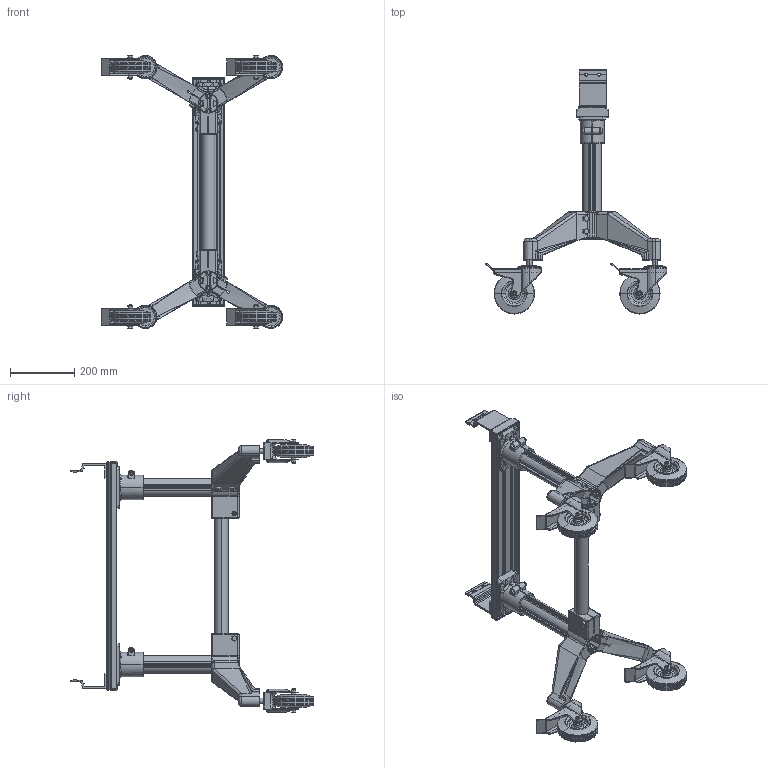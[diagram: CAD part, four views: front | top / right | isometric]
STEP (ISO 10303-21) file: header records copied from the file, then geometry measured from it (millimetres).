
FILE_DESCRIPTION (( 'STEP AP214' ), '1' );
FILE_NAME ('F2-2400-2P2-120R.STEP', '2010-03-11T12:33:01', ( '.' ), ( '' ), 'SwSTEP 2.0', 'SolidWorks 2009', '' );
FILE_SCHEMA (( 'AUTOMOTIVE_DESIGN' ));
Length unit declared in the file: millimetre
Products named in the file (1): F2-2400-2P2-120R
Bounding box: 563.55 x 757.65 x 851.5 mm (x, y, z)
Surface area: 1601457.4 mm2 (no closed solid volume)
Topology: 0 solids, 27 shells, 1871 faces, 5198 edges, 3312 vertices
Faces by surface type: plane 683, cylinder 629, torus 332, bspline 145, cone 68, sphere 14
Entity records: 110204 total; most frequent: CARTESIAN_POINT 43135, DIRECTION 9902, ORIENTED_EDGE 9184, EDGE_CURVE 5174, AXIS2_PLACEMENT_3D 3684, VERTEX_POINT 3312, VECTOR 2534, LINE 2534
